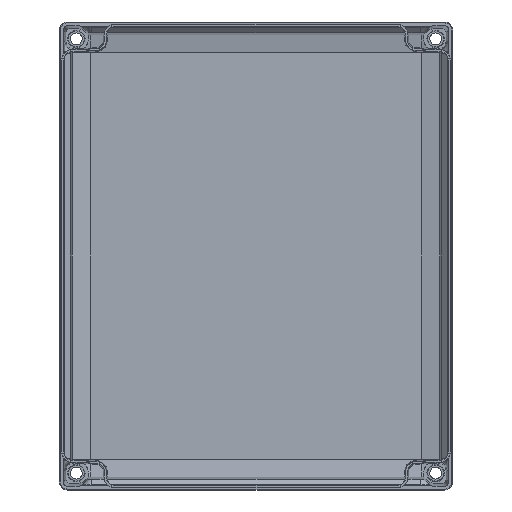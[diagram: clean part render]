
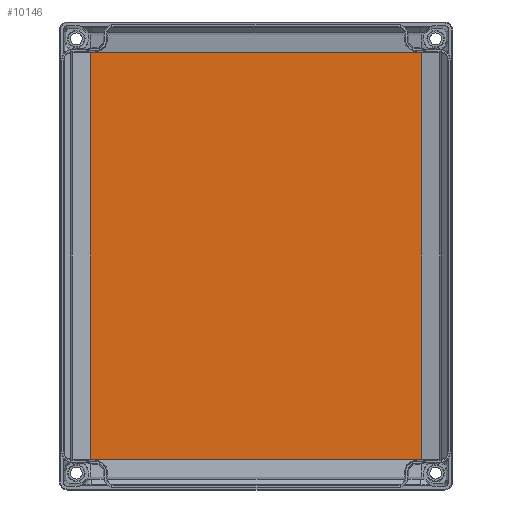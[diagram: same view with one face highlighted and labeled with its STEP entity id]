
A CAD part, front view. The second image highlights one B-rep face of the part: STEP entity #10146.
In plain terms, the highlighted planar face has unit normal (0, -1, 0).
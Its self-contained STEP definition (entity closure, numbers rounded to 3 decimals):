
#77 = DIRECTION ( 'NONE',  ( 0., 1., 0. ) ) ;
#510 = EDGE_CURVE ( 'NONE', #9457, #2762, #3869, .T. ) ;
#1389 = FACE_OUTER_BOUND ( 'NONE', #9565, .T. ) ;
#1701 = VECTOR ( 'NONE', #4567, 1000. ) ;
#1932 = CARTESIAN_POINT ( 'NONE',  ( -121.714, 66.7, 149.214 ) ) ;
#2003 = EDGE_CURVE ( 'NONE', #2819, #5654, #7163, .T. ) ;
#2131 = DIRECTION ( 'NONE',  ( -1., 0., 0. ) ) ;
#2155 = LINE ( 'NONE', #5369, #4602 ) ;
#2479 = ORIENTED_EDGE ( 'NONE', *, *, #510, .T. ) ;
#2482 = PLANE ( 'NONE',  #7169 ) ;
#2540 = EDGE_CURVE ( 'NONE', #2819, #9457, #2155, .T. ) ;
#2762 = VERTEX_POINT ( 'NONE', #6650 ) ;
#2819 = VERTEX_POINT ( 'NONE', #7565 ) ;
#2880 = ORIENTED_EDGE ( 'NONE', *, *, #8045, .F. ) ;
#3340 = ORIENTED_EDGE ( 'NONE', *, *, #2003, .F. ) ;
#3358 = LINE ( 'NONE', #5817, #8708 ) ;
#3869 = LINE ( 'NONE', #10308, #1701 ) ;
#4567 = DIRECTION ( 'NONE',  ( 0., 0., -1. ) ) ;
#4602 = VECTOR ( 'NONE', #2131, 1000. ) ;
#4910 = DIRECTION ( 'NONE',  ( -1., 0., 0. ) ) ;
#5369 = CARTESIAN_POINT ( 'NONE',  ( 0., 66.7, 149.211 ) ) ;
#5428 = ORIENTED_EDGE ( 'NONE', *, *, #2540, .T. ) ;
#5592 = CARTESIAN_POINT ( 'NONE',  ( 121.711, 66.7, 0. ) ) ;
#5654 = VERTEX_POINT ( 'NONE', #6341 ) ;
#5761 = DIRECTION ( 'NONE',  ( 0., 0., 1. ) ) ;
#5817 = CARTESIAN_POINT ( 'NONE',  ( 0., 66.7, -149.211 ) ) ;
#6341 = CARTESIAN_POINT ( 'NONE',  ( 121.714, 66.7, -149.214 ) ) ;
#6650 = CARTESIAN_POINT ( 'NONE',  ( -121.714, 66.7, -149.214 ) ) ;
#7163 = LINE ( 'NONE', #5592, #9580 ) ;
#7169 = AXIS2_PLACEMENT_3D ( 'NONE', #8961, #77, #5761 ) ;
#7565 = CARTESIAN_POINT ( 'NONE',  ( 121.714, 66.7, 149.214 ) ) ;
#8045 = EDGE_CURVE ( 'NONE', #5654, #2762, #3358, .T. ) ;
#8111 = DIRECTION ( 'NONE',  ( 0., 0., -1. ) ) ;
#8708 = VECTOR ( 'NONE', #4910, 1000. ) ;
#8961 = CARTESIAN_POINT ( 'NONE',  ( 0., 66.7, 0. ) ) ;
#9457 = VERTEX_POINT ( 'NONE', #1932 ) ;
#9565 = EDGE_LOOP ( 'NONE', ( #5428, #2479, #2880, #3340 ) ) ;
#9580 = VECTOR ( 'NONE', #8111, 1000. ) ;
#10146 = ADVANCED_FACE ( 'NONE', ( #1389 ), #2482, .F. ) ;
#10308 = CARTESIAN_POINT ( 'NONE',  ( -121.711, 66.7, 0. ) ) ;
